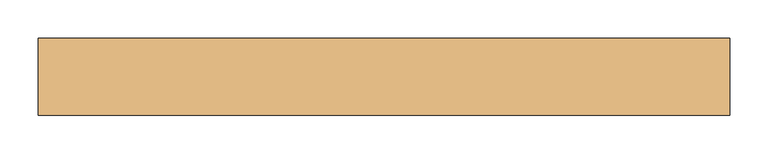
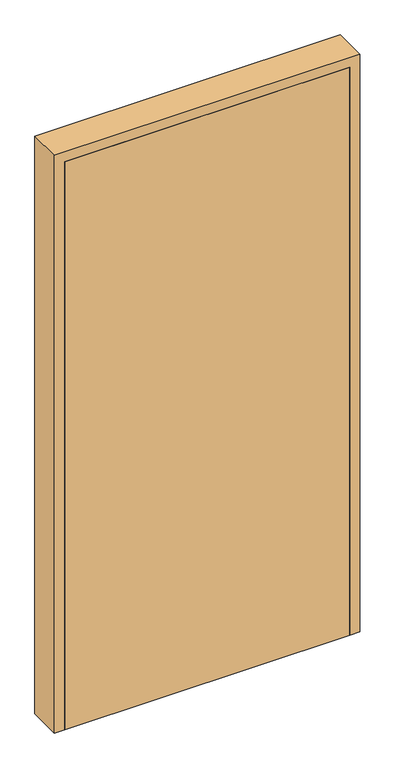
"""IFC4 building model written with IfcOpenShell, lengths in millimetres: door geometry, DR000-문 : DR000-미닫이 문 900x1800."""

from ifc_helpers import new_model, si_unit, origin, origin_with_axes, place, context, project, spatial, polyline, outline, extrude, faceted_brep, source, transform, mapped, element, save


def door_d16c5775(model_context):
    return source(origin(), model_context, "Body", "SolidModel", [
        extrude(outline(polyline([(420.0, -50.0), (-420.0, -50.0), (-420.0, -20.0), (420.0, -20.0), (420.0, -50.0)])), origin_with_axes(), (0.0, 0.0, 1.0), 1770.0),
        faceted_brep([(-450.0, 50.0, 0.0), (-390.0, 50.0, 0.0), (-390.0, -20.0, 0.0), (-420.0, -20.0, 0.0), (-420.0, -50.0, 0.0), (-450.0, -50.0, 0.0), (-450.0, -50.0, 1800.0), (-450.0, 50.0, 1800.0), (-420.0, -50.0, 1770.0), (420.0, -50.0, 1770.0), (420.0, -50.0, 0.0), (450.0, -50.0, 0.0), (450.0, -50.0, 1800.0), (-420.0, -20.0, 1770.0), (-390.0, -20.0, 1740.0), (390.0, -20.0, 1740.0), (390.0, -20.0, 0.0), (420.0, -20.0, 0.0), (420.0, -20.0, 1770.0), (-390.0, 50.0, 1740.0), (450.0, 50.0, 1800.0), (450.0, 50.0, 0.0), (390.0, 50.0, 0.0), (390.0, 50.0, 1740.0)], [[[0, 1, 2, 3, 4, 5]], [[5, 6, 7, 0]], [[4, 8, 9, 10, 11, 12, 6, 5]], [[3, 13, 8, 4]], [[2, 14, 15, 16, 17, 18, 13, 3]], [[1, 19, 14, 2]], [[0, 7, 20, 21, 22, 23, 19, 1]], [[6, 12, 20, 7]], [[13, 18, 9, 8]], [[19, 23, 15, 14]], [[21, 11, 10, 17, 16, 22]], [[12, 11, 21, 20]], [[18, 17, 10, 9]], [[23, 22, 16, 15]]]),
    ])


if __name__ == "__main__":
    model = new_model("IFC4")
    model_context = context("Model", 3, world=origin())
    ifc_project = project(units=[si_unit("LENGTHUNIT", "METRE", prefix="MILLI")], contexts=[model_context])
    site = spatial("IfcSite", under=ifc_project)
    building = spatial("IfcBuilding", under=site)
    placement = place(None, origin())
    door_shape = door_d16c5775(model_context)
    element("IfcDoor", 1, ObjectType="DR000-문 : DR000-미닫이 문 900x1800", at=placement, inside=building, context=model_context, shape_type="MappedRepresentation", body=[
        mapped(door_shape, transform((0.0, 0.0, 0.0), x_axis=(1.0, 0.0, 0.0), y_axis=(0.0, 1.0, 0.0), z_axis=(0.0, 0.0, 1.0))),
    ])
    save(model, "model.ifc")
